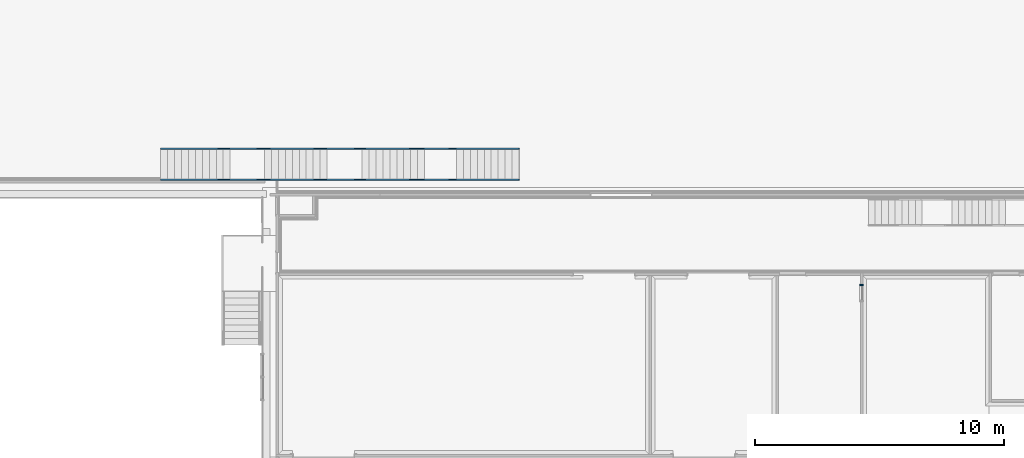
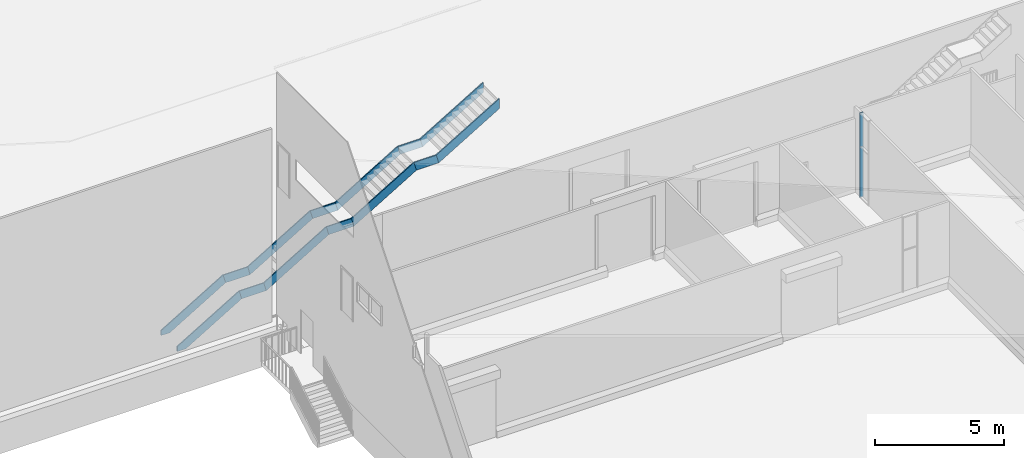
# One storey, part 4 of 64: 16 members, 2 elements without a shape of their own.
"""IFC2X3 building model written with IfcOpenShell, lengths in millimetres."""

from ifc_helpers import new_model, entity, si_unit, converted_unit, derived_unit, direction, frame, frame_2d, origin, place, context, subcontext, project, spatial, polyline, rectangle, outline, extrude, material, type_object, element, aggregate, save


model = new_model("IFC2X3")

# Units and contexts
model_context = context("Model", 3, precision=0.01, world=origin(), true_north=direction((4.05803320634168e-15, -1.0)))
body_context = subcontext(model_context, "Body", "Model", "MODEL_VIEW")
ifc_project = project(units=[si_unit("LENGTHUNIT", "METRE", prefix="MILLI"), si_unit("AREAUNIT", "SQUARE_METRE"), si_unit("VOLUMEUNIT", "CUBIC_METRE"), converted_unit("PLANEANGLEUNIT", "DEGREE", entity("IfcRatioMeasure", 0.0174532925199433), si_unit("PLANEANGLEUNIT", "RADIAN"), dimensions=[0, 0, 0, 0, 0, 0, 0]), si_unit("MASSUNIT", "GRAM", prefix="KILO"), derived_unit("MASSDENSITYUNIT", [(si_unit("MASSUNIT", "GRAM", prefix="KILO"), 1), (si_unit("LENGTHUNIT", "METRE"), -3)]), si_unit("TIMEUNIT", "SECOND"), si_unit("FREQUENCYUNIT", "HERTZ"), si_unit("THERMODYNAMICTEMPERATUREUNIT", "DEGREE_CELSIUS"), derived_unit("THERMALTRANSMITTANCEUNIT", [(si_unit("MASSUNIT", "GRAM", prefix="KILO"), 1), (si_unit("THERMODYNAMICTEMPERATUREUNIT", "KELVIN"), -1), (si_unit("TIMEUNIT", "SECOND"), -3)]), derived_unit("VOLUMETRICFLOWRATEUNIT", [(si_unit("LENGTHUNIT", "METRE"), 3), (si_unit("TIMEUNIT", "SECOND"), -1)]), si_unit("ELECTRICCURRENTUNIT", "AMPERE"), si_unit("ELECTRICVOLTAGEUNIT", "VOLT"), si_unit("POWERUNIT", "WATT"), si_unit("FORCEUNIT", "NEWTON", prefix="KILO"), si_unit("ILLUMINANCEUNIT", "LUX"), si_unit("LUMINOUSFLUXUNIT", "LUMEN"), si_unit("LUMINOUSINTENSITYUNIT", "CANDELA"), derived_unit("USERDEFINED", [(si_unit("MASSUNIT", "GRAM", prefix="KILO"), -1), (si_unit("LENGTHUNIT", "METRE"), -2), (si_unit("TIMEUNIT", "SECOND"), 3), (si_unit("LUMINOUSFLUXUNIT", "LUMEN"), 1)]), derived_unit("LINEARVELOCITYUNIT", [(si_unit("LENGTHUNIT", "METRE"), 1), (si_unit("TIMEUNIT", "SECOND"), -1)]), si_unit("PRESSUREUNIT", "PASCAL"), derived_unit("USERDEFINED", [(si_unit("LENGTHUNIT", "METRE"), -2), (si_unit("MASSUNIT", "GRAM", prefix="KILO"), 1), (si_unit("TIMEUNIT", "SECOND"), -2)])], contexts=[model_context])

# Site, building, storey
site_placement = place(None, frame((927466.849349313, 583801.882853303, 0.0), z_axis=(0.0, 0.0, 1.0), x_axis=(-1.0, 0.0, 0.0)))
site = spatial("IfcSite", under=ifc_project, at=site_placement, Name="Surface", CompositionType="ELEMENT")
building_placement = place(site_placement, origin())
building = spatial("IfcBuilding", under=site, at=building_placement, CompositionType="ELEMENT")
storey_placement = place(building_placement, frame((0.0, 0.0, 44170.0)))
storey = spatial("IfcBuildingStorey", under=building, at=storey_placement, Name="Ground FFL", CompositionType="ELEMENT", Elevation=44170.0)

# Stair, members
stair_placement = place(storey_placement, origin())
stair = element("IfcStair", 1, at=stair_placement, inside=storey, Name="Assembled Stair:Stair", ObjectType="Assembled Stair:190mm max riser 250mm going", ShapeType="NOTDEFINED")
member_type = type_object("IfcMemberType", Name="Stringer:Stringer - 50mm Width", PredefinedType="STRINGER")
member_1_placement = place(stair_placement, origin())
member_1 = element("IfcMember", 2, at=member_1_placement, type_object=member_type, Name="Assembled Stair:Stair:516542 Stringer 1", ObjectType="Assembled Stair:190mm max riser 250mm going", context=body_context, shape_type="SweptSolid", body=[
    extrude(outline(polyline([(-1669.85350520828, -200.0), (1495.20817224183, -200.0), (1734.1317472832, 200.0), (-1559.48641431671, 200.0), (-1669.85350520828, -200.0)])), frame((-89732.8287257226, 10089.2777512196, 5862.63786203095), z_axis=(0.0, 1.0, 0.0), x_axis=(-0.858510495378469, 0.0, 0.512795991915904)), (0.0, 0.0, 1.0), 49.9999999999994),
])
member_2_placement = place(stair_placement, origin())
member_2 = element("IfcMember", 3, at=member_2_placement, type_object=member_type, Name="Assembled Stair:Stair:516542 Stringer 2", ObjectType="Assembled Stair:190mm max riser 250mm going", context=body_context, shape_type="SweptSolid", body=[
    extrude(outline(polyline([(-1669.85350520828, -200.0), (1495.20817224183, -200.0), (1734.1317472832, 200.0), (-1559.48641431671, 200.0), (-1669.85350520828, -200.0)])), frame((-89732.8287257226, 11339.2777512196, 5862.63786203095), z_axis=(0.0, 1.0, 0.0), x_axis=(-0.858510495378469, 0.0, 0.512795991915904)), (0.0, 0.0, 1.0), 49.9999999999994),
])
member_3_placement = place(stair_placement, origin())
member_3 = element("IfcMember", 4, at=member_3_placement, type_object=member_type, Name="Assembled Stair:Stair:516542 Stringer 3", ObjectType="Assembled Stair:190mm max riser 250mm going", context=body_context, shape_type="SweptSolid", body=[
    extrude(outline(polyline([(-1685.91491976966, -200.0), (1575.54782887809, -200.0), (1685.91491976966, 200.0), (-1575.54782887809, 200.0), (-1685.91491976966, -200.0)])), frame((-85946.6176186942, 10089.2777512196, 4198.40906575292), z_axis=(0.0, 1.0, 0.0), x_axis=(-0.858510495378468, 0.0, 0.512795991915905)), (0.0, 0.0, 1.0), 49.9999999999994),
])
member_4_placement = place(stair_placement, origin())
member_4 = element("IfcMember", 5, at=member_4_placement, type_object=member_type, Name="Assembled Stair:Stair:516542 Stringer 4", ObjectType="Assembled Stair:190mm max riser 250mm going", context=body_context, shape_type="SweptSolid", body=[
    extrude(outline(polyline([(-1685.91491976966, -200.0), (1575.54782887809, -200.0), (1685.91491976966, 200.0), (-1575.54782887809, 200.0), (-1685.91491976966, -200.0)])), frame((-85946.6176186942, 11339.2777512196, 4198.40906575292), z_axis=(0.0, 1.0, 0.0), x_axis=(-0.858510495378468, 0.0, 0.512795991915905)), (0.0, 0.0, 1.0), 49.9999999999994),
])
member_5_placement = place(stair_placement, origin())
member_5 = element("IfcMember", 6, at=member_5_placement, type_object=member_type, Name="Assembled Stair:Stair:516542 Stringer 5", ObjectType="Assembled Stair:190mm max riser 250mm going", context=body_context, shape_type="SweptSolid", body=[
    extrude(outline(polyline([(-444.816454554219, -200.0), (555.183545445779, -200.0), (444.816454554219, 200.0), (-555.183545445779, 200.0), (-444.816454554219, -200.0)])), frame((-87846.6176186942, 10089.2777512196, 5034.64157839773), z_axis=(0.0, 1.0, 0.0), x_axis=(1.0, 0.0, 0.0)), (0.0, 0.0, 1.0), 49.9999999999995),
])
member_6_placement = place(stair_placement, origin())
member_6 = element("IfcMember", 7, at=member_6_placement, type_object=member_type, Name="Assembled Stair:Stair:516542 Stringer 6", ObjectType="Assembled Stair:190mm max riser 250mm going", context=body_context, shape_type="SweptSolid", body=[
    extrude(outline(polyline([(-444.816454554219, -200.0), (555.183545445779, -200.0), (444.816454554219, 200.0), (-555.183545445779, 200.0), (-444.816454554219, -200.0)])), frame((-87846.6176186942, 11339.2777512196, 5034.64157839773), z_axis=(0.0, 1.0, 0.0), x_axis=(-1.0, 0.0, 0.0)), (0.0, 0.0, 1.0), 49.9999999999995),
])
member_7_placement = place(stair_placement, origin())
member_7 = element("IfcMember", 8, at=member_7_placement, type_object=member_type, Name="Assembled Stair:Stair:516542 Stringer 7", ObjectType="Assembled Stair:190mm max riser 250mm going", context=body_context, shape_type="SweptSolid", body=[
    extrude(outline(polyline([(-1685.91491976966, -200.0), (1575.54782887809, -200.0), (1685.91491976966, 200.0), (-1575.54782887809, 200.0), (-1685.91491976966, -200.0)])), frame((-82024.7185835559, 10089.2777512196, 2525.94404046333), z_axis=(0.0, 1.0, 0.0), x_axis=(-0.858510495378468, 0.0, 0.512795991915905)), (0.0, 0.0, 1.0), 49.9999999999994),
])
member_8_placement = place(stair_placement, origin())
member_8 = element("IfcMember", 9, at=member_8_placement, type_object=member_type, Name="Assembled Stair:Stair:516542 Stringer 8", ObjectType="Assembled Stair:190mm max riser 250mm going", context=body_context, shape_type="SweptSolid", body=[
    extrude(outline(polyline([(-1685.91491976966, -200.0), (1575.54782887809, -200.0), (1685.91491976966, 200.0), (-1575.54782887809, 200.0), (-1685.91491976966, -200.0)])), frame((-82024.7185835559, 11339.2777512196, 2525.94404046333), z_axis=(0.0, 1.0, 0.0), x_axis=(-0.858510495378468, 0.0, 0.512795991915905)), (0.0, 0.0, 1.0), 49.9999999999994),
])
member_9_placement = place(stair_placement, origin())
member_9 = element("IfcMember", 10, at=member_9_placement, type_object=member_type, Name="Assembled Stair:Stair:516542 Stringer 9", ObjectType="Assembled Stair:190mm max riser 250mm going", context=body_context, shape_type="SweptSolid", body=[
    extrude(outline(polyline([(-505.76597212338, -200.0), (616.133063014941, -200.0), (505.76597212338, 200.0), (-616.133063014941, 200.0), (-505.76597212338, -200.0)])), frame((-83985.6681011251, 10089.2777512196, 3362.17655310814), z_axis=(0.0, 1.0, 0.0), x_axis=(1.0, 0.0, 0.0)), (0.0, 0.0, 1.0), 49.9999999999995),
])
member_10_placement = place(stair_placement, origin())
member_10 = element("IfcMember", 11, at=member_10_placement, type_object=member_type, Name="Assembled Stair:Stair:516542 Stringer 10", ObjectType="Assembled Stair:190mm max riser 250mm going", context=body_context, shape_type="SweptSolid", body=[
    extrude(outline(polyline([(-505.76597212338, -200.0), (616.133063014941, -200.0), (505.76597212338, 200.0), (-616.133063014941, 200.0), (-505.76597212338, -200.0)])), frame((-83985.6681011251, 11339.2777512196, 3362.17655310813), z_axis=(0.0, 1.0, 0.0), x_axis=(-1.0, 0.0, 0.0)), (0.0, 0.0, 1.0), 49.9999999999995),
])
member_11_placement = place(stair_placement, origin())
member_11 = element("IfcMember", 12, at=member_11_placement, type_object=member_type, Name="Assembled Stair:Stair:516542 Stringer 11", ObjectType="Assembled Stair:190mm max riser 250mm going", context=body_context, shape_type="SweptSolid", body=[
    extrude(outline(polyline([(-1208.77566691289, -722.631745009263), (-820.052904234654, -722.631745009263), (1673.98566447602, 767.079782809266), (1563.61857358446, 1167.07978280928), (-1208.77566691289, -488.896075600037), (-1208.77566691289, -722.631745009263)])), frame((-77905.9164645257, 10089.2777512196, 722.631745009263), z_axis=(0.0, 1.0, 0.0), x_axis=(-1.0, 0.0, 0.0)), (0.0, 0.0, 1.0), 49.9999999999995),
])
member_12_placement = place(stair_placement, origin())
member_12 = element("IfcMember", 13, at=member_12_placement, type_object=member_type, Name="Assembled Stair:Stair:516542 Stringer 12", ObjectType="Assembled Stair:190mm max riser 250mm going", context=body_context, shape_type="SweptSolid", body=[
    extrude(outline(polyline([(-1208.77566691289, -722.631745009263), (-820.052904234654, -722.631745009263), (1673.98566447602, 767.079782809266), (1563.61857358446, 1167.07978280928), (-1208.77566691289, -488.896075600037), (-1208.77566691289, -722.631745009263)])), frame((-77905.9164645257, 11339.2777512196, 722.631745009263), z_axis=(0.0, 1.0, 0.0), x_axis=(-1.0, 0.0, 0.0)), (0.0, 0.0, 1.0), 49.9999999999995),
])
member_13_placement = place(stair_placement, origin())
member_13 = element("IfcMember", 14, at=member_13_placement, type_object=member_type, Name="Assembled Stair:Stair:516542 Stringer 13", ObjectType="Assembled Stair:190mm max riser 250mm going", context=body_context, shape_type="SweptSolid", body=[
    extrude(outline(polyline([(-494.816454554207, -200.0), (605.183545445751, -200.0), (494.81645455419, 200.0), (-605.183545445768, 200.0), (-494.816454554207, -200.0)])), frame((-80074.7185835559, 10089.2777512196, 1689.71152781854), z_axis=(0.0, 1.0, 0.0), x_axis=(1.0, 0.0, 0.0)), (0.0, 0.0, 1.0), 49.9999999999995),
])
member_14_placement = place(stair_placement, origin())
member_14 = element("IfcMember", 15, at=member_14_placement, type_object=member_type, Name="Assembled Stair:Stair:516542 Stringer 14", ObjectType="Assembled Stair:190mm max riser 250mm going", context=body_context, shape_type="SweptSolid", body=[
    extrude(outline(polyline([(-494.816454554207, -200.0), (605.183545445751, -200.0), (494.81645455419, 200.0), (-605.183545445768, 200.0), (-494.816454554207, -200.0)])), frame((-80074.7185835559, 11339.2777512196, 1689.71152781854), z_axis=(0.0, 1.0, 0.0), x_axis=(-1.0, 0.0, 0.0)), (0.0, 0.0, 1.0), 49.9999999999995),
])
aggregate(stair, [member_1, member_2, member_3, member_4, member_5, member_6, member_7, member_8, member_9, member_10, member_11, member_12, member_13, member_14])

# Curtain wall, members
curtain_wall_type = type_object("IfcCurtainWallType", Name="Curtain Wall:Storefront", PredefinedType="NOTDEFINED")
curtain_wall_placement = place(storey_placement, frame((0.0, 0.0, -44170.0)))
curtain_wall = element("IfcCurtainWall", 16, at=curtain_wall_placement, inside=storey, type_object=curtain_wall_type, Name="Curtain Wall:Storefront", ObjectType="Curtain Wall:Storefront")
ifc_material = material(Name="Aluminium")
member_15_placement = place(curtain_wall_placement, frame((0.0, 0.0, 44170.0)))
member_15 = element("IfcMember", 17, at=member_15_placement, material=ifc_material, Name="Curtain Wall:Storefront:8486", ObjectType="Curtain Wall:Storefront:8486", context=body_context, shape_type="SweptSolid", body=[
    extrude(rectangle(XDim=150.000000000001, YDim=49.9999999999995, at=frame_2d((0.0, 1.08357767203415e-12), x_axis=(1.0, 0.0))), frame((-104897.937276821, 15592.4703266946, 4000.0), z_axis=(0.0, 0.0, -1.0), x_axis=(-1.0, 0.0, 0.0)), (0.0, 0.0, 1.0), 1600.0),
])
member_16_placement = place(curtain_wall_placement, frame((0.0, 0.0, 44170.0)))
member_16 = element("IfcMember", 18, at=member_16_placement, material=ifc_material, Name="Curtain Wall:Storefront:8486", ObjectType="Curtain Wall:Storefront:8486", context=body_context, shape_type="SweptSolid", body=[
    extrude(rectangle(XDim=150.000000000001, YDim=49.9999999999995, at=frame_2d((0.0, 1.08357767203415e-12), x_axis=(1.0, 0.0))), frame((-104897.937276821, 15592.4703266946, 2400.0), z_axis=(0.0, 0.0, -1.0), x_axis=(-1.0, 0.0, 0.0)), (0.0, 0.0, 1.0), 2400.0),
])
aggregate(curtain_wall, [member_15, member_16])

save(model, "model.ifc")
